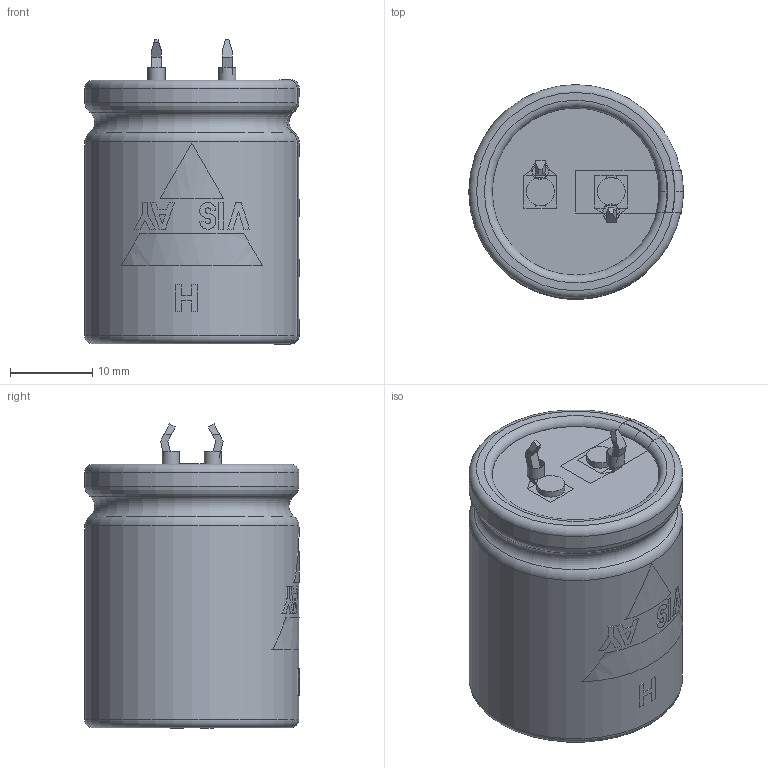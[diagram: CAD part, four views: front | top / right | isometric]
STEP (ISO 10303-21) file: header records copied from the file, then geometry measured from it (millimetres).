
FILE_DESCRIPTION(('FreeCAD Model'),'2;1');
FILE_NAME( 'C:/Users/Gebruiker/Documents/FreeCAD/SnapIn_25x30_2pin_4.0.step', '2020-11-12T20:04:24',('Author'),(''), 'Open CASCADE STEP processor 6.8','FreeCAD','Unknown');
FILE_SCHEMA(('AUTOMOTIVE_DESIGN_CC2 { 1 2 10303 214 -1 1 5 4 }'));
Length unit declared in the file: millimetre
Products named in the file (9): ASSEMBLY; TerminalMin; TerminalPlus; PCBHoles; Disc; BottomInsulation; Can3D; InkMinusBar; InkLogo
Assembly tree (8 placements, depth 2):
  ASSEMBLY
    TerminalMin
    TerminalPlus
    PCBHoles
    Disc
    BottomInsulation
    Can3D
    InkMinusBar
    InkLogo
Bounding box: 26.05 x 26.05 x 36.95 mm (x, y, z)
Volume: 19281.5 mm3; surface area: 9111.8 mm2
Topology: 16 solids, 16 shells, 193 faces, 472 edges, 309 vertices
Faces by surface type: plane 146, cylinder 29, torus 18
Full cylindrical faces by diameter (mm): 2 x2, 2.1 x2, 3.4 x2, 20.3 x1, 20.8 x2, 26 x2
Entity records: 20300 total; most frequent: CARTESIAN_POINT 9713, DIRECTION 1651, ORIENTED_EDGE 944, PCURVE 944, DEFINITIONAL_REPRESENTATION 944, LINE 916, VECTOR 916, EDGE_CURVE 472
